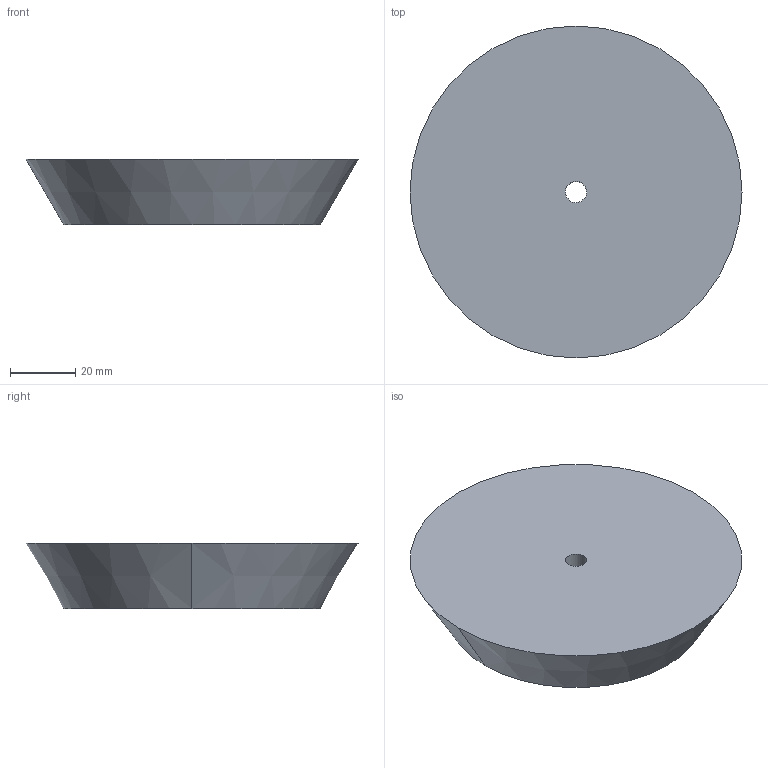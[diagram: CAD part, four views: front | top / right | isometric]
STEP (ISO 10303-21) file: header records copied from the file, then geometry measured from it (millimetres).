
FILE_DESCRIPTION(('CATIA V5 STEP Exchange'),'2;1');
FILE_NAME('C:\Users\andres.garcia\OneDrive - IQS\ASIGNATURAS\DAO\Controles\2223\c0\c1-ALAWAM_Sami-tapon.stp','2023-02-03T08:22:01+00:00',('none'),('none'),'CATIA Version 5-6 Release 2013 SP6','CATIA V5 STEP AP203','none');
FILE_SCHEMA(('CONFIG_CONTROL_DESIGN'));
Length unit declared in the file: millimetre
Products named in the file (1): c1-ALAWAM_Sami-tapon
Bounding box: 102 x 102 x 20 mm (x, y, z)
Volume: 128553 mm3; surface area: 19965.9 mm2
Topology: 1 solids, 1 shells, 6 faces, 12 edges, 8 vertices
Faces by surface type: cylinder 2, plane 2, cone 2
Entity records: 196 total; most frequent: CARTESIAN_POINT 26, ORIENTED_EDGE 24, DIRECTION 22, AXIS2_PLACEMENT_3D 14, EDGE_CURVE 12, CIRCLE 8, EDGE_LOOP 8, VERTEX_POINT 8
